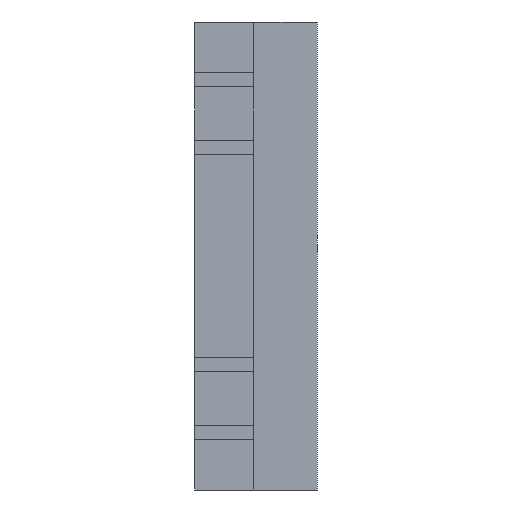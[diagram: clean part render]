
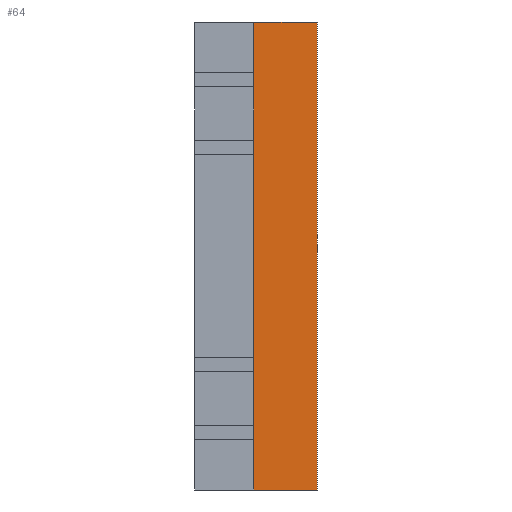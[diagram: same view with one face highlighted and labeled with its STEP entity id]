
A CAD part, left-side view. The second image highlights one B-rep face of the part: STEP entity #64.
In plain terms, the highlighted planar face has unit normal (-1, 0, 0).
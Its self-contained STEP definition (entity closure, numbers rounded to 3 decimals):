
#64=ADVANCED_FACE('',(#96),#1156,.T.);
#96=FACE_OUTER_BOUND('',#134,.T.);
#134=EDGE_LOOP('',(#263,#264,#265,#266));
#263=ORIENTED_EDGE('',*,*,#849,.T.);
#264=ORIENTED_EDGE('',*,*,#836,.F.);
#265=ORIENTED_EDGE('',*,*,#850,.T.);
#266=ORIENTED_EDGE('',*,*,#827,.F.);
#449=PCURVE('',#1151,#617);
#458=PCURVE('',#1152,#626);
#479=PCURVE('',#1156,#647);
#480=PCURVE('',#1156,#648);
#481=PCURVE('',#1156,#649);
#482=PCURVE('',#1156,#650);
#483=PCURVE('',#1157,#651);
#498=PCURVE('',#1158,#666);
#617=DEFINITIONAL_REPRESENTATION('',(#974),#2126);
#626=DEFINITIONAL_REPRESENTATION('',(#992),#2126);
#647=DEFINITIONAL_REPRESENTATION('',(#1018),#2126);
#648=DEFINITIONAL_REPRESENTATION('',(#1019),#2126);
#649=DEFINITIONAL_REPRESENTATION('',(#1021),#2126);
#650=DEFINITIONAL_REPRESENTATION('',(#1022),#2126);
#651=DEFINITIONAL_REPRESENTATION('',(#1023),#2126);
#666=DEFINITIONAL_REPRESENTATION('',(#1038),#2126);
#743=SURFACE_CURVE('',#973,(#449,#482),.PCURVE_S1.);
#752=SURFACE_CURVE('',#991,(#458,#480),.PCURVE_S1.);
#765=SURFACE_CURVE('',#1017,(#479,#498),.PCURVE_S1.);
#766=SURFACE_CURVE('',#1020,(#481,#483),.PCURVE_S1.);
#827=EDGE_CURVE('',#1101,#1102,#743,.T.);
#836=EDGE_CURVE('',#1106,#1105,#752,.T.);
#849=EDGE_CURVE('',#1101,#1105,#765,.T.);
#850=EDGE_CURVE('',#1106,#1102,#766,.T.);
#973=B_SPLINE_CURVE_WITH_KNOTS('',1,(#1779,#1780),.UNSPECIFIED.,.F.,.F.,
(2,2),(-46.4,-43.3),.UNSPECIFIED.);
#974=B_SPLINE_CURVE_WITH_KNOTS('',1,(#1781,#1782),.UNSPECIFIED.,.F.,.F.,
(2,2),(-46.4,-43.3),.UNSPECIFIED.);
#991=B_SPLINE_CURVE_WITH_KNOTS('',1,(#1815,#1816),.UNSPECIFIED.,.F.,.F.,
(2,2),(43.3,46.4),.UNSPECIFIED.);
#992=B_SPLINE_CURVE_WITH_KNOTS('',1,(#1817,#1818),.UNSPECIFIED.,.F.,.F.,
(2,2),(43.3,46.4),.UNSPECIFIED.);
#1017=B_SPLINE_CURVE_WITH_KNOTS('',1,(#1921,#1922),.UNSPECIFIED.,.F.,.F.,
(2,2),(0.,23.),.UNSPECIFIED.);
#1018=B_SPLINE_CURVE_WITH_KNOTS('',1,(#1923,#1924),.UNSPECIFIED.,.F.,.F.,
(2,2),(0.,23.),.UNSPECIFIED.);
#1019=B_SPLINE_CURVE_WITH_KNOTS('',1,(#1925,#1926),.UNSPECIFIED.,.F.,.F.,
(2,2),(43.3,46.4),.UNSPECIFIED.);
#1020=B_SPLINE_CURVE_WITH_KNOTS('',1,(#1927,#1928),.UNSPECIFIED.,.F.,.F.,
(2,2),(-23.,0.),.UNSPECIFIED.);
#1021=B_SPLINE_CURVE_WITH_KNOTS('',1,(#1929,#1930),.UNSPECIFIED.,.F.,.F.,
(2,2),(-23.,0.),.UNSPECIFIED.);
#1022=B_SPLINE_CURVE_WITH_KNOTS('',1,(#1931,#1932),.UNSPECIFIED.,.F.,.F.,
(2,2),(-46.4,-43.3),.UNSPECIFIED.);
#1023=B_SPLINE_CURVE_WITH_KNOTS('',1,(#1933,#1934),.UNSPECIFIED.,.F.,.F.,
(2,2),(-23.,0.),.UNSPECIFIED.);
#1038=B_SPLINE_CURVE_WITH_KNOTS('',1,(#2043,#2044),.UNSPECIFIED.,.F.,.F.,
(2,2),(0.,23.),.UNSPECIFIED.);
#1101=VERTEX_POINT('',#1745);
#1102=VERTEX_POINT('',#1746);
#1105=VERTEX_POINT('',#1749);
#1106=VERTEX_POINT('',#1750);
#1151=PLANE('',#1187);
#1152=PLANE('',#1188);
#1156=PLANE('',#1192);
#1157=PLANE('',#1193);
#1158=PLANE('',#1194);
#1187=AXIS2_PLACEMENT_3D('',#1671,#1206,$);
#1188=AXIS2_PLACEMENT_3D('',#1672,#1207,$);
#1192=AXIS2_PLACEMENT_3D('',#1676,#1211,$);
#1193=AXIS2_PLACEMENT_3D('',#1677,#1212,$);
#1194=AXIS2_PLACEMENT_3D('',#1678,#1213,$);
#1206=DIRECTION('',(0.,0.,-1.));
#1207=DIRECTION('',(0.,0.,1.));
#1211=DIRECTION('',(-1.,0.,0.));
#1212=DIRECTION('',(0.,-1.,0.));
#1213=DIRECTION('',(0.,-1.,0.));
#1671=CARTESIAN_POINT('',(-714.24,22.94,-1.5));
#1672=CARTESIAN_POINT('',(-714.24,22.94,21.5));
#1676=CARTESIAN_POINT('',(-707.7,23.,-1.5));
#1677=CARTESIAN_POINT('',(-707.7,26.1,-1.5));
#1678=CARTESIAN_POINT('',(-714.1,23.,-1.5));
#1745=CARTESIAN_POINT('',(-707.7,23.,-1.5));
#1746=CARTESIAN_POINT('',(-707.7,26.1,-1.5));
#1749=CARTESIAN_POINT('',(-707.7,23.,21.5));
#1750=CARTESIAN_POINT('',(-707.7,26.1,21.5));
#1779=CARTESIAN_POINT('',(-707.7,23.,-1.5));
#1780=CARTESIAN_POINT('',(-707.7,26.1,-1.5));
#1781=CARTESIAN_POINT('',(-6.,-7.6));
#1782=CARTESIAN_POINT('',(-2.9,-7.6));
#1815=CARTESIAN_POINT('',(-707.7,26.1,21.5));
#1816=CARTESIAN_POINT('',(-707.7,23.,21.5));
#1817=CARTESIAN_POINT('',(0.,3.1));
#1818=CARTESIAN_POINT('',(0.,0.));
#1921=CARTESIAN_POINT('',(-707.7,23.,-1.5));
#1922=CARTESIAN_POINT('',(-707.7,23.,21.5));
#1923=CARTESIAN_POINT('',(0.,6.4));
#1924=CARTESIAN_POINT('',(23.,6.4));
#1925=CARTESIAN_POINT('',(23.,9.5));
#1926=CARTESIAN_POINT('',(23.,6.4));
#1927=CARTESIAN_POINT('',(-707.7,26.1,21.5));
#1928=CARTESIAN_POINT('',(-707.7,26.1,-1.5));
#1929=CARTESIAN_POINT('',(23.,9.5));
#1930=CARTESIAN_POINT('',(0.,9.5));
#1931=CARTESIAN_POINT('',(0.,6.4));
#1932=CARTESIAN_POINT('',(0.,9.5));
#1933=CARTESIAN_POINT('',(23.,9.5));
#1934=CARTESIAN_POINT('',(0.,9.5));
#2043=CARTESIAN_POINT('',(6.4,0.));
#2044=CARTESIAN_POINT('',(6.4,23.));
#2126=(
GEOMETRIC_REPRESENTATION_CONTEXT(2)
PARAMETRIC_REPRESENTATION_CONTEXT()
REPRESENTATION_CONTEXT('pspace','')
);
